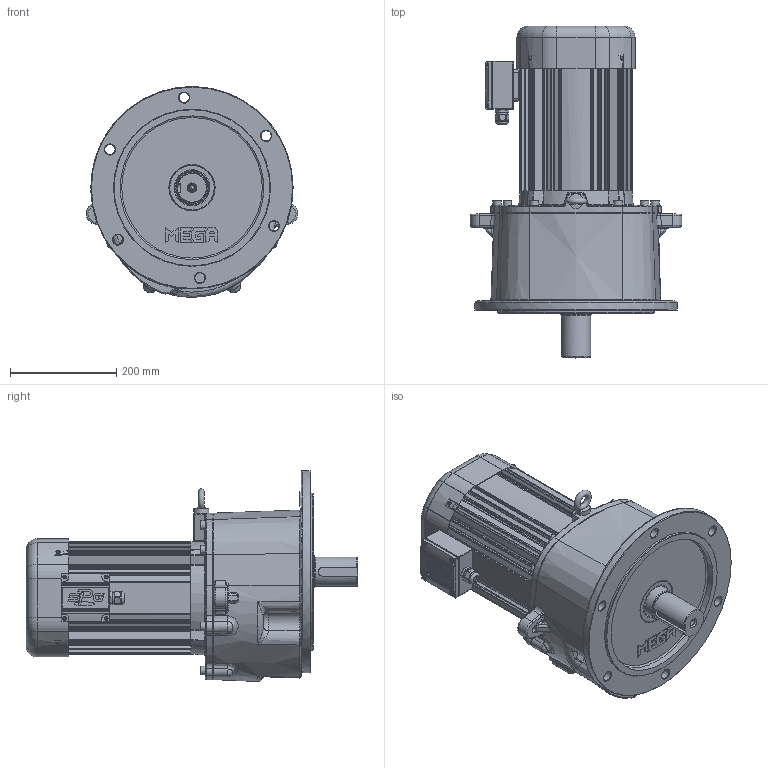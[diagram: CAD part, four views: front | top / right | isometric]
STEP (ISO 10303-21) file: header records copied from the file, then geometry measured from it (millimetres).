
FILE_DESCRIPTION(/* description */ (''),/* implementation_level */ '2;1');
FILE_NAME(/* name */ 'Z:\동력 3D 파일\PMK205_3.7kW_3D.stp',/* time_stamp */ '2021-12-01T09:38:18+09:00',/* author */ ('jaebok'),/* organization */ (''),/* preprocessor_version */ 'ST-DEVELOPER v18.1',/* originating_system */ 'Autodesk Inventor 2022',/* authorisation */ '');
FILE_SCHEMA (('AUTOMOTIVE_DESIGN { 1 0 10303 214 3 1 1 }'));
Products named in the file (1): 부품17
Bounding box: 397 x 623.5 x 395.96 mm (x, y, z)
Volume: 10460683.2 mm3; surface area: 1791587 mm2
Topology: 6 solids, 45 shells, 3420 faces, 8478 edges, 5095 vertices
Faces by surface type: plane 1041, cylinder 932, bspline 702, torus 428, cone 187, sphere 130
Full cylindrical faces by diameter (mm): 3.25 x1, 3.6 x4, 4 x21, 4.5 x4, 5 x18, 6 x5, 6.647 x12, 7 x8, 8 x5, 8.376 x1, 9 x4, 10 x9, 10.106 x3, 11 x8, 12 x1, 12.5 x1, 13.835 x1, 15 x1, 16 x8, 19 x6, 20 x2, 21 x1, 23.6 x1, 25 x1, 26 x1, 28 x1, 31 x1, 36 x1, 45 x1, 48 x1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
Entity records: 129217 total; most frequent: CARTESIAN_POINT 48408, ORIENTED_EDGE 16614, DIRECTION 15646, EDGE_CURVE 8307, AXIS2_PLACEMENT_3D 6312, VERTEX_POINT 5095, EDGE_LOOP 3692, CIRCLE 3566
